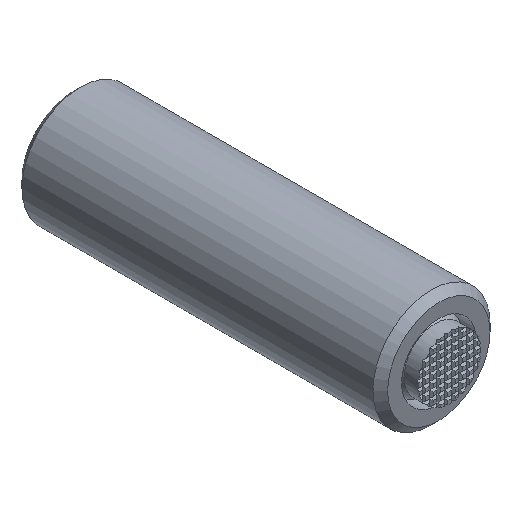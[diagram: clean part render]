
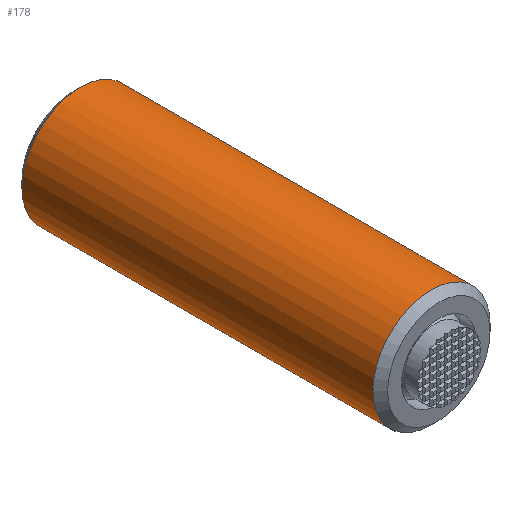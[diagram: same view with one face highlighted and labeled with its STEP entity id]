
A CAD part, isometric view. The second image highlights one B-rep face of the part: STEP entity #178.
In plain terms, the highlighted cylindrical face has radius 8 mm (diameter 16 mm), a full revolution.
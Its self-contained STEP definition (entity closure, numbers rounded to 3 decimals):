
#178 = ADVANCED_FACE( '', ( #521, #522 ), #523, .T. );
#521 = FACE_OUTER_BOUND( '', #1183, .T. );
#522 = FACE_OUTER_BOUND( '', #1184, .T. );
#523 = CYLINDRICAL_SURFACE( '', #1185, 8. );
#1183 = EDGE_LOOP( '', ( #1873 ) );
#1184 = EDGE_LOOP( '', ( #1874 ) );
#1185 = AXIS2_PLACEMENT_3D( '', #1875, #1876, #1877 );
#1873 = ORIENTED_EDGE( '', *, *, #4196, .F. );
#1874 = ORIENTED_EDGE( '', *, *, #4179, .T. );
#1875 = CARTESIAN_POINT( '', ( 0., 0., 0. ) );
#1876 = DIRECTION( '', ( 0., 1., 0. ) );
#1877 = DIRECTION( '', ( 0., 0., -1. ) );
#4179 = EDGE_CURVE( '', #4870, #4870, #4871, .T. );
#4196 = EDGE_CURVE( '', #4902, #4902, #4903, .T. );
#4870 = VERTEX_POINT( '', #5936 );
#4871 = CIRCLE( '', #5937, 8. );
#4902 = VERTEX_POINT( '', #5979 );
#4903 = CIRCLE( '', #5980, 8. );
#5936 = CARTESIAN_POINT( '', ( 0., 49., -8. ) );
#5937 = AXIS2_PLACEMENT_3D( '', #7596, #7597, #7598 );
#5979 = CARTESIAN_POINT( '', ( 0., 1., -8. ) );
#5980 = AXIS2_PLACEMENT_3D( '', #7625, #7626, #7627 );
#7596 = CARTESIAN_POINT( '', ( 0., 49., 0. ) );
#7597 = DIRECTION( '', ( 0., -1., 0. ) );
#7598 = DIRECTION( '', ( 0., 0., -1. ) );
#7625 = CARTESIAN_POINT( '', ( 0., 1., 0. ) );
#7626 = DIRECTION( '', ( 0., -1., 0. ) );
#7627 = DIRECTION( '', ( 0., 0., -1. ) );
